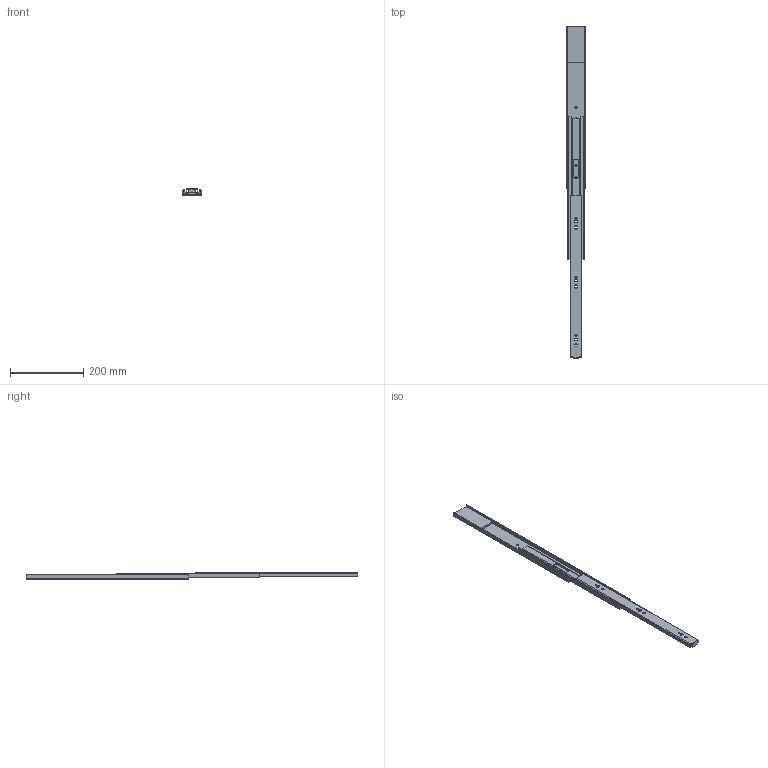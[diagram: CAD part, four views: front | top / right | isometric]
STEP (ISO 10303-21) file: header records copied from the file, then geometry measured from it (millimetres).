
FILE_DESCRIPTION((''),'2;1');
FILE_NAME('78A01_450_OPEN_ASM','2020-09-01T15:16:56',('T170334'),(''),'CREO PARAMETRIC BY PTC INC, 2018260','CREO PARAMETRIC BY PTC INC, 2018260','');
FILE_SCHEMA(('CONFIG_CONTROL_DESIGN'));
Length unit declared in the file: millimetre
Products named in the file (5): OUT_450; MID_450; IN_450; MECHANISM_O; 78A01_450_OPEN_ASM
Assembly tree (4 placements, depth 2):
  78A01_450_OPEN_ASM
    OUT_450
    MID_450
    IN_450
    MECHANISM_O
Bounding box: 53.32 x 904.2 x 18.84 mm (x, y, z)
Volume: 173422.5 mm3; surface area: 174997 mm2
Topology: 4 solids, 4 shells, 158 faces, 446 edges, 296 vertices
Faces by surface type: plane 80, cylinder 78
Entity records: 5363 total; most frequent: CARTESIAN_POINT 949, DIRECTION 920, ORIENTED_EDGE 892, EDGE_CURVE 446, AXIS2_PLACEMENT_3D 315, VERTEX_POINT 296, VECTOR 290, LINE 290
